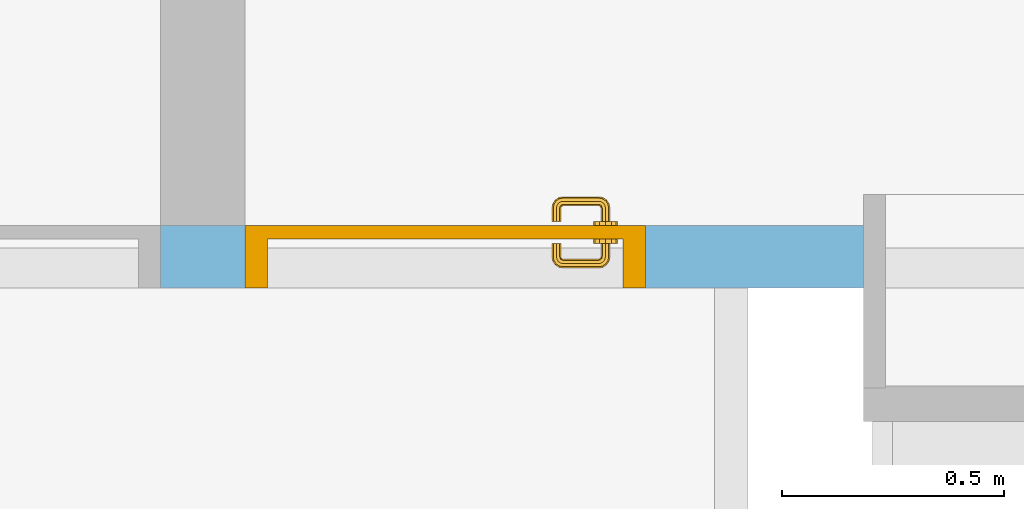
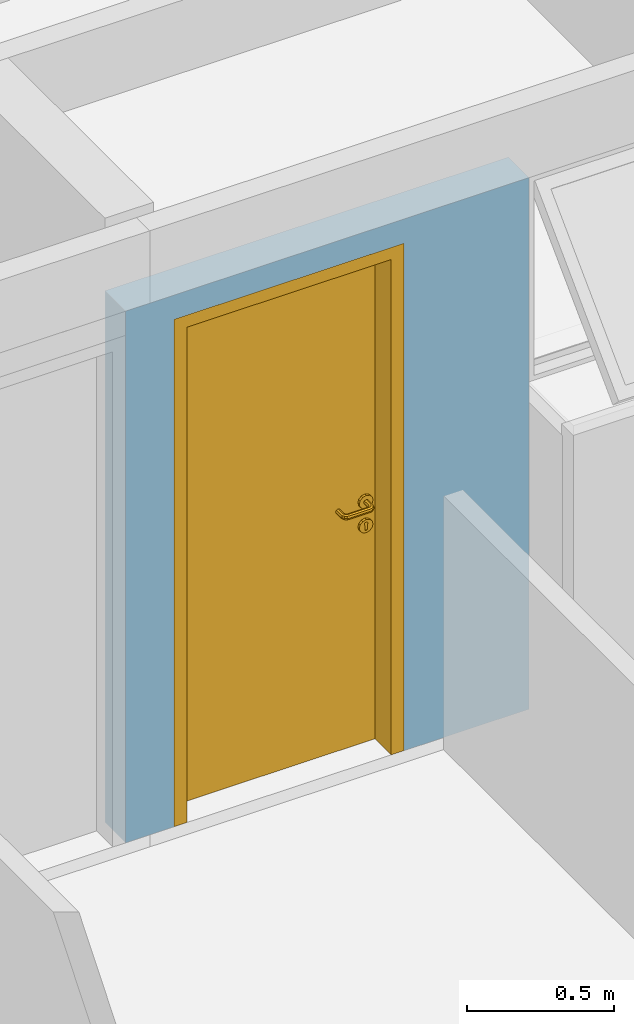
# One storey, part 10 of 22: 1 door, 1 opening, plus 1 element that does not belong to this part.
"""IFC2X3 building model written with IfcOpenShell, lengths in millimetres."""

from ifc_helpers import new_model, si_unit, direction, frame, frame_2d, origin_with_axes, place, context, subcontext, project, spatial, polyline, rectangle, outline, extrude, open_shell, faceted_brep, surface_model, source, transform, mapped, material, layer, layer_set, layer_usage, type_object, type_shapes, element, fill, save


model = new_model("IFC2X3")

# Units and contexts
model_context = context("Model", 3, precision=1e-05, world=origin_with_axes(), true_north=direction((0.0, 1.0)))
body_context = subcontext(model_context, "Body", "Model", "MODEL_VIEW")
ifc_project = project(units=[si_unit("LENGTHUNIT", "METRE", prefix="MILLI"), si_unit("AREAUNIT", "SQUARE_METRE"), si_unit("VOLUMEUNIT", "CUBIC_METRE"), si_unit("PLANEANGLEUNIT", "RADIAN"), si_unit("TIMEUNIT", "SECOND"), si_unit("MASSUNIT", "GRAM")], contexts=[model_context])

# Site, building, storey
site_placement = place(None, origin_with_axes())
site = spatial("IfcSite", under=ifc_project, at=site_placement, Name="Site", CompositionType="ELEMENT")
building_placement = place(site_placement, origin_with_axes())
building = spatial("IfcBuilding", under=site, at=building_placement, Name="Construção", CompositionType="COMPLEX")
storey_placement = place(building_placement, frame((0.0, 0.0, 2650.0), z_axis=(0.0, 0.0, 1.0), x_axis=(1.0, 0.0, 0.0)))
storey = spatial("IfcBuildingStorey", under=building, at=storey_placement, Name="Segundo Pavimento", CompositionType="COMPLEX", Elevation=2650.0)

# Wall, opening, door
ifc_material = material(Name="GENÉRICO - VEDAÇÃO EXTERNA")
ifc_layer = layer(ifc_material, 140.0)
ifc_layer_set = layer_set([ifc_layer], Name="GENÉRICO - VEDAÇÃO EXTERNA 140")
ifc_layer_usage = layer_usage(ifc_layer_set, "AXIS2", "POSITIVE", 0.0)
wall_type = type_object("IfcWallType", Name="GENÉRICO - VEDAÇÃO EXTERNA 140", PredefinedType="STANDARD", material=ifc_layer_set)
wall_placement = place(storey_placement, frame((8870.0, 18035.0, 0.0), z_axis=(0.0, 0.0, 1.0), x_axis=(-1.0, 0.0, 0.0)))
wall = element("IfcWallStandardCase", 1, at=wall_placement, inside=storey, type_object=wall_type, material=ifc_layer_usage, Name="APTO8-PAREDE-004", context=body_context, shape_type="SweptSolid", body=[
    extrude(rectangle(XDim=1580.0, YDim=140.0, at=frame_2d((0.0, 0.0), x_axis=(-1.0, 0.0))), frame((790.0, 70.0, 0.0), z_axis=(0.0, 0.0, 1.0), x_axis=(1.0, 0.0, 0.0)), (0.0, 0.0, 1.0), 2200.0),
])
opening_placement = place(wall_placement, frame((490.0, 0.0, 0.0), z_axis=(0.0, 0.0, 1.0), x_axis=(1.0, 0.0, 0.0)))
opening = element("IfcOpeningElement", 2, at=opening_placement, cuts=wall, ObjectType="Opening", context=body_context, shape_type="SweptSolid", body=[
    extrude(outline(polyline([(450.0, 1050.0), (450.0, -1050.0), (-450.0, -1050.0), (-450.0, 1050.0), (450.0, 1050.0)])), frame((450.0, -140.0, 1050.0), z_axis=(0.0, 1.0, 0.0), x_axis=(1.0, 0.0, 0.0)), (0.0, 0.0, 1.0), 420.0),
])
door_style = type_object("IfcDoorStyle", Name="Porta 25", ConstructionType="NOTDEFINED", OperationType="SINGLE_SWING_LEFT", ParameterTakesPrecedence=False, Sizeable=False)
shared_shape_1 = source(origin_with_axes(), body_context, "Body", "SolidModel", [
    extrude(outline(polyline([(9.999999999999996, -26.66666666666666), (9.999999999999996, -56.66666666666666), (-30.0, -56.66666666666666), (-30.0, 83.33333333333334), (20.0, 83.33333333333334), (20.0, -26.66666666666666), (9.999999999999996, -26.66666666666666)])), frame((30.0, 0.0, -56.66666666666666), z_axis=(0.0, 1.0, 0.0), x_axis=(1.0, 0.0, 0.0)), (0.0, 0.0, 1.0), 2050.0),
])
shared_shape_2 = source(origin_with_axes(), body_context, "Body", "SolidModel", [
    extrude(outline(polyline([(-10.0, -26.66666666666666), (-20.0, -26.66666666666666), (-20.0, 83.33333333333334), (30.0, 83.33333333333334), (30.0, -56.66666666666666), (-10.0, -56.66666666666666), (-10.0, -26.66666666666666)])), frame((870.0, 0.0, -56.66666666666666), z_axis=(0.0, 1.0, 0.0), x_axis=(1.0, 0.0, 0.0)), (0.0, 0.0, 1.0), 2050.0),
])
shared_shape_3 = source(origin_with_axes(), body_context, "Body", "SolidModel", [
    faceted_brep([(900.0, 2050.0, -140.0), (0.0, 2050.0, -140.0), (0.0, 2100.0, -140.0), (900.0, 2100.0, -140.0), (859.9999999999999, 2050.0, -29.99999999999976), (859.9999999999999, 2060.0, -29.99999999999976), (39.99999999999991, 2060.0, -29.99999999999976), (39.99999999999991, 2050.0, -29.99999999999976), (39.99999999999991, 2050.0, 0.0), (39.99999999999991, 2060.0, 0.0), (0.0, 2050.0, 0.0), (0.0, 2100.0, 0.0), (899.9999999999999, 2100.0, 0.0), (899.9999999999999, 2050.0, 0.0), (859.9999999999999, 2050.0, 0.0), (859.9999999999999, 2060.0, 0.0)], [[[0, 1, 2, 3]], [[4, 5, 6, 7]], [[8, 7, 6, 9]], [[10, 11, 2, 1]], [[11, 12, 3, 2]], [[12, 13, 0, 3]], [[4, 7, 8, 10, 1, 0, 13, 14]], [[15, 5, 4, 14]], [[9, 6, 5, 15]], [[9, 15, 14, 13, 12, 11, 10, 8]]]),
])
shared_shape_4 = source(origin_with_axes(), body_context, "Body", "SolidModel", [
    extrude(outline(polyline([(0.0, 27.00000000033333), (13.49999999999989, 23.38268590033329), (23.38268590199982, 13.50000000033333), (26.99999999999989, 3.333298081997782e-10), (23.38268590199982, -13.49999999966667), (13.49999999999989, -23.38268590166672), (0.0, -26.99999999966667), (-13.50000000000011, -23.38268590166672), (-23.38268590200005, -13.49999999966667), (-27.0, 3.333298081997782e-10), (-23.38268590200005, 13.50000000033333), (-13.50000000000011, 23.38268590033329), (0.0, 27.00000000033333)])), frame((90.0, 999.9999999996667, -40.0), z_axis=(0.0, 0.0, 1.0), x_axis=(1.0, 0.0, 0.0)), (0.0, 0.0, 1.0), 10.0),
])
shared_shape_5 = source(origin_with_axes(), body_context, "Body", "SolidModel", [
    faceted_brep([(63.0, 900.0, -30.0), (63.0, 900.0, -40.0), (66.61731409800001, 886.5, -40.0), (66.61731409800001, 886.5, -30.0), (64.0, 900.0, -39.0), (64.0, 900.0, -30.0), (67.48333950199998, 887.0, -30.0), (67.48333950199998, 887.0, -39.0), (67.48333950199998, 913.0, -39.0), (67.48333950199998, 913.0, -30.0), (77.0, 877.483339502, -30.0), (77.0, 877.483339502, -39.0), (77.0, 922.516660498, -39.0), (77.0, 922.516660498, -30.0), (76.5, 876.617314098, -40.0), (76.5, 876.617314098, -30.0), (66.61731409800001, 913.5, -30.0), (66.61731409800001, 913.5, -40.0), (90.0, 874.0, -30.0), (90.0, 874.0, -39.0), (103.0, 922.516660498, -30.0), (112.516660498, 913.0, -30.0), (116.0, 900.0, -30.0), (112.516660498, 887.0, -30.0), (103.0, 877.483339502, -30.0), (90.0, 926.0, -30.0), (117.0, 900.0, -30.0), (113.382685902, 913.5, -30.0), (103.5, 923.382685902, -30.0), (90.0, 927.0, -30.0), (76.5, 923.382685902, -30.0), (90.0, 873.0, -30.0), (103.5, 876.617314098, -30.0), (113.382685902, 886.5, -30.0), (90.0, 873.0, -40.0), (112.516660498, 887.0, -39.0), (116.0, 900.0, -39.0), (112.516660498, 913.0, -39.0), (103.5, 876.617314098, -40.0), (103.0, 877.483339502, -39.0), (113.382685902, 886.5, -40.0), (117.0, 900.0, -40.0), (90.0, 926.0, -39.0), (86.46446609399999, 883.964466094, -40.0), (85.0, 887.5, -40.0), (85.0, 887.5, -39.0), (86.46446609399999, 883.964466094, -39.0), (90.0, 882.5, -40.0), (90.0, 882.5, -39.0), (76.5, 923.382685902, -40.0), (90.0, 927.0, -40.0), (85.0, 904.4, -39.0), (85.0, 904.4, -40.0), (82.53216922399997, 909.692280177, -40.0), (82.53216922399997, 909.692280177, -39.0), (103.0, 922.516660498, -39.0), (103.5, 923.382685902, -40.0), (95.0, 887.5, -40.0), (93.53553390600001, 883.964466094, -40.0), (93.53553390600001, 883.964466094, -39.0), (95.0, 887.5, -39.0), (113.382685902, 913.5, -40.0), (84.62481768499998, 915.143815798, -40.0), (84.62481768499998, 915.143815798, -39.0), (83.279754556, 911.639806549, -39.0), (83.279754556, 911.639806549, -40.0), (90.0, 917.425445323, -40.0), (90.0, 917.425445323, -39.0), (97.46783077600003, 909.692280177, -39.0), (95.0, 904.4, -39.0), (95.37518231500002, 915.143815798, -39.0), (96.720245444, 911.639806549, -39.0), (95.37518231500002, 915.143815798, -40.0), (95.0, 904.4, -40.0), (97.46783077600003, 909.692280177, -40.0), (96.720245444, 911.639806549, -40.0)], [[[0, 1, 2, 3]], [[4, 5, 6, 7]], [[8, 9, 5, 4]], [[7, 6, 10, 11]], [[12, 13, 9, 8]], [[3, 2, 14, 15]], [[16, 17, 1, 0]], [[11, 10, 18, 19]], [[20, 21, 22, 23, 24, 18, 10, 6, 5, 9, 13, 25], [26, 27, 28, 29, 30, 16, 0, 3, 15, 31, 32, 33]], [[15, 14, 34, 31]], [[35, 23, 22, 36]], [[36, 22, 21, 37]], [[31, 34, 38, 32]], [[39, 24, 23, 35]], [[32, 38, 40, 33]], [[33, 40, 41, 26]], [[42, 25, 13, 12]], [[43, 44, 45, 46]], [[47, 43, 46, 48]], [[30, 49, 17, 16]], [[29, 50, 49, 30]], [[19, 18, 24, 39]], [[51, 45, 44, 52]], [[53, 54, 51, 52]], [[37, 21, 20, 55]], [[28, 56, 50, 29]], [[57, 58, 59, 60]], [[58, 47, 48, 59]], [[55, 20, 25, 42]], [[26, 41, 61, 27]], [[62, 63, 64, 54, 53, 65]], [[66, 67, 63, 62]], [[27, 61, 56, 28]], [[36, 37, 55, 42, 12, 8, 4, 7, 11, 19, 39, 35], [68, 69, 60, 59, 48, 46, 45, 51, 54, 64, 63, 67, 70, 71]], [[72, 70, 67, 66]], [[73, 69, 68, 74]], [[73, 57, 60, 69]], [[74, 68, 71, 70, 72, 75]], [[50, 56, 61, 41, 40, 38, 34, 14, 2, 1, 17, 49], [74, 75, 72, 66, 62, 65, 53, 52, 44, 43, 47, 58, 57, 73]]], outer=[[True], [True], [True], [True], [True], [True], [True], [True], [False, True], [True], [True], [True], [True], [True], [True], [True], [True], [True], [True], [True], [True], [True], [True], [True], [True], [True], [True], [True], [True], [True], [True], [True], [True], [True, False], [True], [True], [True], [True], [True, False]]),
])
shared_shape_6 = source(origin_with_axes(), body_context, "Body", "SurfaceModel", [
    surface_model("IfcShellBasedSurfaceModel", [(192.928932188, 992.928932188, -69.303560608), (192.928932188, 992.928932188, -40.0), (190.0, 1000.0, -40.0), (190.0, 1000.0, -69.0150859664), (192.928932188, 1007.07106781, -40.0), (192.928932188, 1007.07106781, -69.303560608), (200.0, 1010.0, -40.0), (200.0, 1010.0, -70.0), (192.197392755, 1007.07106781, -72.9812576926), (198.858192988, 1010.0, -75.74025148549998), (207.071067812, 1007.07106781, -70.696439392), (205.518993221, 1007.07106781, -78.49924527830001), (186.838445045, 1000.0, -74.43839896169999), (188.397003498, 1000.0, -73.39700349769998), (190.508645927, 1007.07106781, -75.5086459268), (187.981257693, 1007.07106781, -77.19739275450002), (195.606601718, 1010.0, -80.6066017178), (189.438398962, 1000.0, -71.83844504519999), (187.981257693, 992.928932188, -77.19739275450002), (190.508645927, 992.928932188, -75.5086459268), (192.197392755, 992.928932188, -72.9812576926), (200.0, 990.0, -70.0), (200.0, 990.0, -40.0), (198.858192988, 990.0, -75.74025148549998), (207.071067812, 1007.07106781, -40.0), (207.071067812, 992.928932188, -70.696439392), (207.071067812, 992.928932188, -40.0), (210.0, 1000.0, -40.0), (210.0, 1000.0, -70.9849140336), (195.606601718, 990.0, -80.6066017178), (205.518993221, 992.928932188, -78.49924527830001), (208.277987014, 1000.0, -79.6420579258), (105.696439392, 992.928932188, -77.92893218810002), (184.303560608, 992.928932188, -77.92893218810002), (184.015085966, 1000.0, -75.0), (105.984914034, 1000.0, -75.0), (184.303560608, 1007.07106781, -77.92893218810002), (190.740251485, 1010.0, -83.8581929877), (185.0, 1010.0, -85.0), (105.696439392, 1007.07106781, -77.92893218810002), (105.0, 1010.0, -85.0), (193.499245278, 1007.07106781, -90.51899322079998), (185.696439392, 1007.07106781, -92.07106781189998), (200.704557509, 1007.07106781, -85.70455750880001), (202.816199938, 1000.0, -87.8161999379), (200.704557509, 992.928932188, -85.70455750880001), (194.642057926, 1000.0, -93.2779870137), (190.740251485, 990.0, -83.8581929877), (103.161554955, 1000.0, -74.43839896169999), (102.018742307, 1007.07106781, -77.19739275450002), (185.0, 990.0, -85.0), (193.499245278, 992.928932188, -90.51899322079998), (102.018742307, 992.928932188, -77.19739275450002), (96.50075472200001, 992.928932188, -90.51899322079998), (104.303560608, 992.928932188, -92.07106781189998), (105.0, 990.0, -85.0), (99.25974851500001, 990.0, -83.8581929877), (185.696439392, 992.928932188, -92.07106781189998), (185.984914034, 1000.0, -95.0), (104.015085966, 1000.0, -95.0), (104.303560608, 1007.07106781, -92.07106781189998), (96.50075472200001, 1007.07106781, -90.51899322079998), (95.357942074, 1000.0, -93.2779870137), (99.25974851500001, 1010.0, -83.8581929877), (101.602996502, 1000.0, -73.39700349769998), (99.491354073, 1007.07106781, -75.5086459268), (94.39339828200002, 1010.0, -80.6066017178), (100.561601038, 1000.0, -71.83844504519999), (97.80260724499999, 1007.07106781, -72.9812576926), (99.491354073, 992.928932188, -75.5086459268), (97.80260724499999, 992.928932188, -72.9812576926), (94.39339828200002, 990.0, -80.6066017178), (89.29544249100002, 1007.07106781, -85.70455750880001), (91.14180701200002, 1010.0, -75.74025148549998), (87.18380006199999, 1000.0, -87.8161999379), (89.29544249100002, 992.928932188, -85.70455750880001), (84.48100677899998, 1007.07106781, -78.49924527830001), (81.72201298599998, 1000.0, -79.6420579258), (97.07106781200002, 1007.07106781, -69.303560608), (90.0, 1010.0, -70.0), (100.0, 1000.0, -69.0150859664), (84.48100677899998, 992.928932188, -78.49924527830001), (91.14180701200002, 990.0, -75.74025148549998), (100.0, 1000.0, -40.0), (97.07106781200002, 1007.07106781, -40.0), (97.07106781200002, 992.928932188, -69.303560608), (97.07106781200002, 992.928932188, -40.0), (90.0, 990.0, -70.0), (90.0, 990.0, -40.0), (82.92893218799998, 992.928932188, -70.696439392), (82.92893218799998, 1007.07106781, -70.696439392), (90.0, 1010.0, -40.0), (80.0, 1000.0, -70.9849140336), (82.92893218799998, 1007.07106781, -40.0), (82.92893218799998, 992.928932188, -40.0), (80.0, 1000.0, -40.0)], [open_shell([[[0, 1, 2, 3]], [[3, 2, 4, 5]], [[5, 4, 6, 7]], [[8, 5, 7, 9]], [[9, 7, 10, 11]], [[12, 13, 14, 15]], [[14, 8, 9, 16]], [[17, 3, 5, 8]], [[18, 19, 13, 12]], [[13, 17, 8, 14]], [[20, 0, 3, 17]], [[21, 22, 1, 0]], [[19, 20, 17, 13]], [[23, 21, 0, 20]], [[7, 6, 24, 10]], [[25, 26, 22, 21]], [[27, 24, 6, 4, 2, 1, 22, 26]], [[10, 24, 27, 28]], [[29, 23, 20, 19]], [[30, 25, 21, 23]], [[28, 27, 26, 25]], [[11, 10, 28, 31]], [[32, 33, 34, 35]], [[34, 12, 15, 36]], [[36, 15, 37, 38]], [[35, 34, 36, 39]], [[39, 36, 38, 40]], [[38, 37, 41, 42]], [[16, 9, 11, 43]], [[15, 14, 16, 37]], [[31, 28, 25, 30]], [[43, 11, 31, 44]], [[37, 16, 43, 41]], [[44, 31, 30, 45]], [[41, 43, 44, 46]], [[45, 30, 23, 29]], [[33, 18, 12, 34]], [[47, 29, 19, 18]], [[48, 35, 39, 49]], [[50, 47, 18, 33]], [[51, 45, 29, 47]], [[52, 32, 35, 48]], [[53, 54, 55, 56]], [[55, 50, 33, 32]], [[57, 51, 47, 50]], [[46, 44, 45, 51]], [[54, 57, 50, 55]], [[58, 46, 51, 57]], [[59, 58, 57, 54]], [[42, 41, 46, 58]], [[60, 42, 58, 59]], [[61, 60, 59, 62]], [[40, 38, 42, 60]], [[49, 39, 40, 63]], [[64, 48, 49, 65]], [[63, 40, 60, 61]], [[65, 49, 63, 66]], [[67, 64, 65, 68]], [[69, 52, 48, 64]], [[56, 55, 32, 52]], [[70, 69, 64, 67]], [[71, 56, 52, 69]], [[66, 63, 61, 72]], [[68, 65, 66, 73]], [[62, 59, 54, 53]], [[72, 61, 62, 74]], [[74, 62, 53, 75]], [[73, 66, 72, 76]], [[76, 72, 74, 77]], [[78, 68, 73, 79]], [[80, 67, 68, 78]], [[75, 53, 56, 71]], [[77, 74, 75, 81]], [[81, 75, 71, 82]], [[83, 80, 78, 84]], [[85, 70, 67, 80]], [[82, 71, 69, 70]], [[86, 85, 80, 83]], [[87, 82, 70, 85]], [[88, 87, 85, 86]], [[89, 81, 82, 87]], [[79, 73, 76, 90]], [[84, 78, 79, 91]], [[90, 76, 77, 92]], [[91, 79, 90, 93]], [[94, 89, 87, 88]], [[92, 77, 81, 89]], [[93, 90, 92, 95]], [[95, 92, 89, 94]]])]),
])
shared_shape_7 = source(origin_with_axes(), body_context, "Body", "SolidModel", [
    extrude(outline(polyline([(0.0, 27.00000000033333), (13.49999999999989, 23.38268590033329), (23.38268590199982, 13.50000000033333), (26.99999999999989, 3.333298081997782e-10), (23.38268590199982, -13.49999999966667), (13.49999999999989, -23.38268590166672), (0.0, -26.99999999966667), (-13.50000000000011, -23.38268590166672), (-23.38268590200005, -13.49999999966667), (-27.0, 3.333298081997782e-10), (-23.38268590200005, 13.50000000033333), (-13.50000000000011, 23.38268590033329), (0.0, 27.00000000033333)])), frame((90.0, 999.9999999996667, 0.0), z_axis=(0.0, 0.0, 1.0), x_axis=(1.0, 0.0, 0.0)), (0.0, 0.0, 1.0), 10.0),
])
shared_shape_8 = source(origin_with_axes(), body_context, "Body", "SolidModel", [
    faceted_brep([(66.61731409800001, 913.5, 10.0), (66.61731409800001, 913.5, 0.0), (63.0, 900.0, 0.0), (63.0, 900.0, 10.0), (66.61731409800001, 886.5, 0.0), (66.61731409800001, 886.5, 10.0), (64.0, 900.0, 9.0), (67.48333950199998, 887.0, 9.0), (67.48333950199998, 887.0, 0.0), (64.0, 900.0, 0.0), (76.5, 876.617314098, 0.0), (76.5, 876.617314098, 10.0), (77.0, 877.483339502, 9.0), (77.0, 877.483339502, 0.0), (67.48333950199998, 913.0, 9.0), (67.48333950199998, 913.0, 0.0), (90.0, 874.0, 9.0), (90.0, 874.0, 0.0), (90.0, 927.0, 0.0), (103.5, 923.382685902, 0.0), (113.382685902, 913.5, 0.0), (117.0, 900.0, 0.0), (113.382685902, 886.5, 0.0), (103.5, 876.617314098, 0.0), (90.0, 873.0, 0.0), (76.5, 923.382685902, 0.0), (112.516660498, 913.0, 0.0), (103.0, 922.516660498, 0.0), (90.0, 926.0, 0.0), (77.0, 922.516660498, 0.0), (103.0, 877.483339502, 0.0), (112.516660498, 887.0, 0.0), (116.0, 900.0, 0.0), (76.5, 923.382685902, 10.0), (90.0, 873.0, 10.0), (77.0, 922.516660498, 9.0), (103.0, 877.483339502, 9.0), (112.516660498, 887.0, 9.0), (82.53216922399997, 909.692280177, 9.0), (82.53216922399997, 909.692280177, 10.0), (85.0, 904.4, 10.0), (85.0, 904.4, 9.0), (85.0, 887.5, 10.0), (85.0, 887.5, 9.0), (86.46446609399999, 883.964466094, 9.0), (86.46446609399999, 883.964466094, 10.0), (90.0, 882.5, 9.0), (90.0, 882.5, 10.0), (93.53553390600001, 883.964466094, 9.0), (93.53553390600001, 883.964466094, 10.0), (116.0, 900.0, 9.0), (90.0, 926.0, 9.0), (90.0, 927.0, 10.0), (103.5, 923.382685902, 10.0), (117.0, 900.0, 10.0), (113.382685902, 913.5, 10.0), (113.382685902, 886.5, 10.0), (103.5, 876.617314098, 10.0), (95.0, 887.5, 9.0), (95.0, 887.5, 10.0), (112.516660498, 913.0, 9.0), (103.0, 922.516660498, 9.0), (90.0, 917.425445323, 9.0), (90.0, 917.425445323, 10.0), (84.62481768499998, 915.143815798, 10.0), (84.62481768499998, 915.143815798, 9.0), (83.279754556, 911.639806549, 10.0), (83.279754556, 911.639806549, 9.0), (95.37518231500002, 915.143815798, 9.0), (95.37518231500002, 915.143815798, 10.0), (97.46783077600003, 909.692280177, 10.0), (95.0, 904.4, 10.0), (96.720245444, 911.639806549, 10.0), (95.0, 904.4, 9.0), (97.46783077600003, 909.692280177, 9.0), (96.720245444, 911.639806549, 9.0)], [[[0, 1, 2, 3]], [[3, 2, 4, 5]], [[6, 7, 8, 9]], [[5, 4, 10, 11]], [[7, 12, 13, 8]], [[14, 6, 9, 15]], [[12, 16, 17, 13]], [[18, 19, 20, 21, 22, 23, 24, 10, 4, 2, 1, 25], [26, 27, 28, 29, 15, 9, 8, 13, 17, 30, 31, 32]], [[33, 25, 1, 0]], [[11, 10, 24, 34]], [[35, 14, 15, 29]], [[36, 37, 31, 30]], [[38, 39, 40, 41]], [[16, 36, 30, 17]], [[40, 42, 43, 41]], [[44, 43, 42, 45]], [[46, 44, 45, 47]], [[48, 46, 47, 49]], [[37, 50, 32, 31]], [[51, 35, 29, 28]], [[52, 18, 25, 33]], [[53, 19, 18, 52]], [[54, 21, 20, 55]], [[56, 22, 21, 54]], [[34, 24, 23, 57]], [[57, 23, 22, 56]], [[55, 20, 19, 53]], [[58, 48, 49, 59]], [[50, 60, 26, 32]], [[61, 51, 28, 27]], [[60, 61, 27, 26]], [[62, 63, 64, 65]], [[65, 64, 66, 39, 38, 67]], [[68, 69, 63, 62]], [[55, 53, 52, 33, 0, 3, 5, 11, 34, 57, 56, 54], [70, 71, 59, 49, 47, 45, 42, 40, 39, 66, 64, 63, 69, 72]], [[73, 71, 70, 74]], [[73, 58, 59, 71]], [[74, 70, 72, 69, 68, 75]], [[51, 61, 60, 50, 37, 36, 16, 12, 7, 6, 14, 35], [74, 75, 68, 62, 65, 67, 38, 41, 43, 44, 46, 48, 58, 73]]]),
])
shared_shape_9 = source(origin_with_axes(), body_context, "Body", "SurfaceModel", [
    surface_model("IfcShellBasedSurfaceModel", [(192.197392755, 1007.07106781, 42.9812576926), (198.858192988, 1010.0, 45.7402514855), (200.0, 1010.0, 40.0), (192.928932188, 1007.07106781, 39.303560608), (189.438398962, 1000.0, 41.8384450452), (190.0, 1000.0, 39.0150859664), (207.071067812, 1007.07106781, 40.696439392), (207.071067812, 1007.07106781, 10.0), (200.0, 1010.0, 10.0), (192.928932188, 1007.07106781, 10.0), (190.0, 1000.0, 10.0), (192.928932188, 992.928932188, 39.303560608), (192.928932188, 992.928932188, 10.0), (200.0, 990.0, 40.0), (200.0, 990.0, 10.0), (192.197392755, 992.928932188, 42.9812576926), (188.397003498, 1000.0, 43.3970034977), (190.508645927, 1007.07106781, 45.5086459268), (187.981257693, 1007.07106781, 47.1973927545), (190.740251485, 1010.0, 53.8581929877), (195.606601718, 1010.0, 50.6066017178), (193.499245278, 1007.07106781, 60.5189932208), (200.704557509, 1007.07106781, 55.7045575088), (205.518993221, 1007.07106781, 48.4992452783), (202.816199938, 1000.0, 57.8161999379), (208.277987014, 1000.0, 49.6420579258), (210.0, 1000.0, 40.9849140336), (210.0, 1000.0, 10.0), (207.071067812, 992.928932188, 10.0), (207.071067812, 992.928932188, 40.696439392), (205.518993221, 992.928932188, 48.4992452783), (198.858192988, 990.0, 45.7402514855), (184.303560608, 1007.07106781, 47.9289321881), (185.0, 1010.0, 55.0), (184.015085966, 1000.0, 45.0), (186.838445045, 1000.0, 44.4383989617), (105.696439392, 1007.07106781, 47.9289321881), (105.0, 1010.0, 55.0), (105.984914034, 1000.0, 45.0), (200.704557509, 992.928932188, 55.7045575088), (195.606601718, 990.0, 50.6066017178), (190.508645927, 992.928932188, 45.5086459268), (187.981257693, 992.928932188, 47.1973927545), (190.740251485, 990.0, 53.8581929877), (184.303560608, 992.928932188, 47.9289321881), (185.696439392, 1007.07106781, 62.0710678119), (194.642057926, 1000.0, 63.2779870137), (193.499245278, 992.928932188, 60.5189932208), (185.0, 990.0, 55.0), (105.696439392, 992.928932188, 47.9289321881), (103.161554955, 1000.0, 44.4383989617), (102.018742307, 1007.07106781, 47.1973927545), (99.25974851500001, 1010.0, 53.8581929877), (104.303560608, 1007.07106781, 62.0710678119), (185.984914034, 1000.0, 65.0), (185.696439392, 992.928932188, 62.0710678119), (105.0, 990.0, 55.0), (102.018742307, 992.928932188, 47.1973927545), (101.602996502, 1000.0, 43.3970034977), (99.491354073, 1007.07106781, 45.5086459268), (94.39339828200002, 1010.0, 50.6066017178), (96.50075472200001, 1007.07106781, 60.5189932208), (94.39339828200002, 990.0, 50.6066017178), (99.491354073, 992.928932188, 45.5086459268), (99.25974851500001, 990.0, 53.8581929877), (91.14180701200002, 990.0, 45.7402514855), (97.80260724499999, 992.928932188, 42.9812576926), (100.561601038, 1000.0, 41.8384450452), (97.80260724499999, 1007.07106781, 42.9812576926), (100.0, 1000.0, 39.0150859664), (97.07106781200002, 1007.07106781, 39.303560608), (97.07106781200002, 992.928932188, 39.303560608), (104.015085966, 1000.0, 65.0), (104.303560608, 992.928932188, 62.0710678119), (95.357942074, 1000.0, 63.2779870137), (96.50075472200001, 992.928932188, 60.5189932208), (89.29544249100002, 992.928932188, 55.7045575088), (87.18380006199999, 1000.0, 57.8161999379), (100.0, 1000.0, 10.0), (97.07106781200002, 1007.07106781, 10.0), (90.0, 1010.0, 40.0), (91.14180701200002, 1010.0, 45.7402514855), (90.0, 1010.0, 10.0), (89.29544249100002, 1007.07106781, 55.7045575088), (84.48100677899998, 1007.07106781, 48.4992452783), (82.92893218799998, 1007.07106781, 40.696439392), (81.72201298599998, 1000.0, 49.6420579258), (82.92893218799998, 1007.07106781, 10.0), (97.07106781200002, 992.928932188, 10.0), (90.0, 990.0, 10.0), (90.0, 990.0, 40.0), (84.48100677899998, 992.928932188, 48.4992452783), (80.0, 1000.0, 40.9849140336), (82.92893218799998, 992.928932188, 40.696439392), (80.0, 1000.0, 10.0), (82.92893218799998, 992.928932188, 10.0)], [open_shell([[[0, 1, 2, 3]], [[4, 0, 3, 5]], [[2, 6, 7, 8]], [[3, 2, 8, 9]], [[5, 3, 9, 10]], [[11, 5, 10, 12]], [[13, 11, 12, 14]], [[15, 4, 5, 11]], [[16, 17, 0, 4]], [[18, 19, 20, 17]], [[17, 20, 1, 0]], [[19, 21, 22, 20]], [[20, 22, 23, 1]], [[1, 23, 6, 2]], [[22, 24, 25, 23]], [[6, 26, 27, 7]], [[27, 28, 14, 12, 10, 9, 8, 7]], [[23, 25, 26, 6]], [[26, 29, 28, 27]], [[25, 30, 29, 26]], [[29, 13, 14, 28]], [[30, 31, 13, 29]], [[32, 33, 19, 18]], [[34, 32, 18, 35]], [[36, 37, 33, 32]], [[38, 36, 32, 34]], [[35, 18, 17, 16]], [[39, 40, 31, 30]], [[31, 15, 11, 13]], [[41, 16, 4, 15]], [[40, 41, 15, 31]], [[42, 35, 16, 41]], [[43, 42, 41, 40]], [[44, 34, 35, 42]], [[33, 45, 21, 19]], [[21, 46, 24, 22]], [[24, 39, 30, 25]], [[46, 47, 39, 24]], [[47, 43, 40, 39]], [[48, 44, 42, 43]], [[49, 38, 34, 44]], [[50, 51, 36, 38]], [[51, 52, 37, 36]], [[37, 53, 45, 33]], [[45, 54, 46, 21]], [[55, 48, 43, 47]], [[56, 49, 44, 48]], [[57, 50, 38, 49]], [[58, 59, 51, 50]], [[59, 60, 52, 51]], [[52, 61, 53, 37]], [[62, 63, 57, 64]], [[65, 66, 63, 62]], [[63, 58, 50, 57]], [[67, 68, 59, 58]], [[66, 67, 58, 63]], [[69, 70, 68, 67]], [[71, 69, 67, 66]], [[53, 72, 54, 45]], [[54, 55, 47, 46]], [[73, 56, 48, 55]], [[64, 57, 49, 56]], [[61, 74, 72, 53]], [[72, 73, 55, 54]], [[75, 64, 56, 73]], [[74, 75, 73, 72]], [[76, 62, 64, 75]], [[77, 76, 75, 74]], [[78, 79, 70, 69]], [[70, 80, 81, 68]], [[79, 82, 80, 70]], [[68, 81, 60, 59]], [[60, 83, 61, 52]], [[81, 84, 83, 60]], [[83, 77, 74, 61]], [[80, 85, 84, 81]], [[84, 86, 77, 83]], [[82, 87, 85, 80]], [[88, 78, 69, 71]], [[89, 88, 71, 90]], [[91, 65, 62, 76]], [[90, 71, 66, 65]], [[85, 92, 86, 84]], [[86, 91, 76, 77]], [[93, 90, 65, 91]], [[87, 94, 92, 85]], [[92, 93, 91, 86]], [[95, 89, 90, 93]], [[94, 95, 93, 92]]])]),
])
shared_shape_10 = source(origin_with_axes(), body_context, "Body", "SolidModel", [
    extrude(rectangle(XDim=2060.0, YDim=820.0, at=frame_2d((0.0, 0.0), x_axis=(0.0, 1.0))), frame((449.9999999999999, 1030.0, -29.99999999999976), z_axis=(0.0, 0.0, 1.0), x_axis=(1.0, 0.0, 0.0)), (0.0, 0.0, 1.0), 30.0),
])
shared_shape_11 = source(origin_with_axes(), body_context, "Body", "MappedRepresentation", [
    mapped(shared_shape_1, transform((0.0, 0.0, 0.0))),
    mapped(shared_shape_2, transform((0.0, 0.0, 0.0))),
    mapped(shared_shape_3, transform((0.0, 0.0, 0.0))),
    mapped(shared_shape_4, transform((0.0, 0.0, 0.0))),
    mapped(shared_shape_5, transform((0.0, 0.0, 0.0))),
    mapped(shared_shape_6, transform((0.0, 0.0, 0.0))),
    mapped(shared_shape_7, transform((0.0, 0.0, 0.0))),
    mapped(shared_shape_8, transform((0.0, 0.0, 0.0))),
    mapped(shared_shape_9, transform((0.0, 0.0, 0.0))),
    mapped(shared_shape_10, transform((0.0, 0.0, 0.0))),
])
type_shapes(door_style, [shared_shape_11])
door_placement = place(opening_placement, origin_with_axes())
door = element("IfcDoor", 3, at=door_placement, inside=storey, type_object=door_style, Name="APTO8-PORTA-004", OverallHeight=2100.0, OverallWidth=900.0, context=body_context, shape_type="MappedRepresentation", body=[
    mapped(shared_shape_11, transform((0.0, 0.0, 0.0), x_axis=(1.0, 0.0, 0.0), y_axis=(0.0, 0.0, 1.0), z_axis=(0.0, -1.0, 0.0), scale=1.0)),
])
fill(opening, door)

save(model, "model.ifc")
